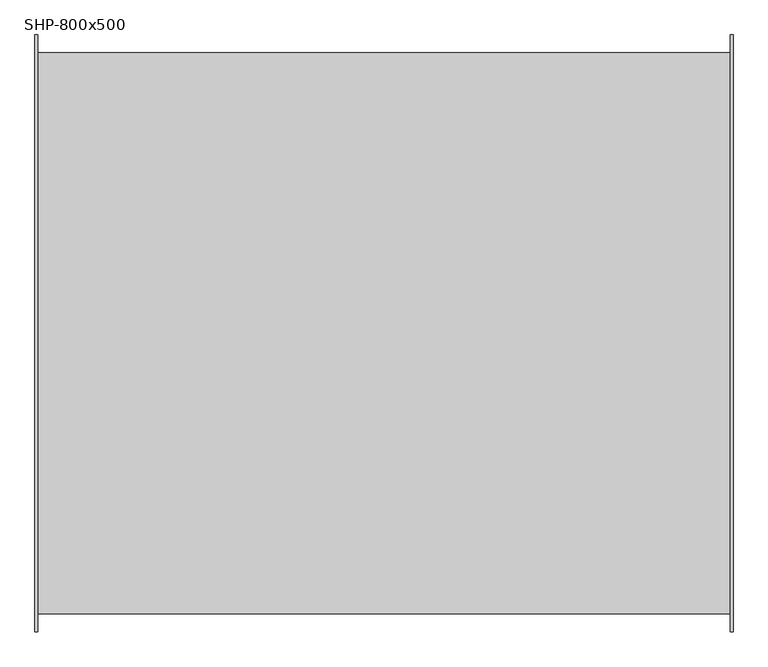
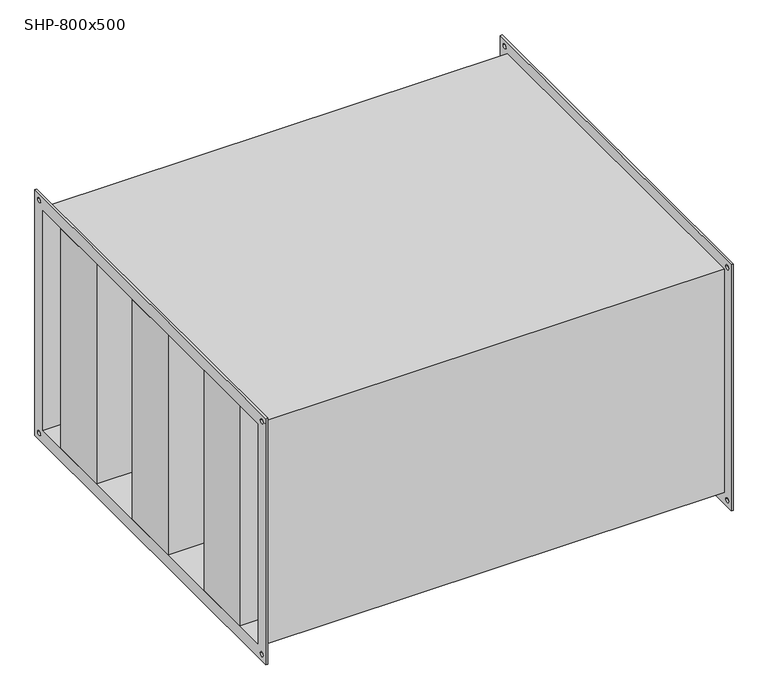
"""IFC4 building model written with IfcOpenShell, lengths in millimetres: damper geometry, СВ_Шумоглушитель_КанальныйПрямоугольный_200-1000_SHP : SHP-800x500."""

from ifc_helpers import new_model, si_unit, frame, origin, place, context, project, spatial, polyline, circle_curve, outline, extrude, source, transform, mapped, element, save
from ifc_brep_helpers import plane_surface, revolved_surface, advanced_brep


def shp_800x500_06faf96d(model_context):
    return source(origin(), model_context, "Body", "SolidModel", [
        extrude(outline(polyline([(502.5, 333.3333333), (502.5, 200.0), (-502.5, 200.0), (-502.5, 333.3333333), (502.5, 333.3333333)])), frame((0.0, 0.0, -250.0), z_axis=(0.0, 0.0, 1.0), x_axis=(1.0, 0.0, 0.0)), (0.0, 0.0, 1.0), 500.0),
        extrude(outline(polyline([(502.5, 66.6666667), (502.5, -66.6666667), (-502.5, -66.6666667), (-502.5, 66.6666667), (502.5, 66.6666667)])), frame((0.0, 0.0, -250.0), z_axis=(0.0, 0.0, 1.0), x_axis=(1.0, 0.0, 0.0)), (0.0, 0.0, 1.0), 500.0),
        extrude(outline(polyline([(502.5, -200.0), (502.5, -333.3333333), (-502.5, -333.3333333), (-502.5, -200.0), (502.5, -200.0)])), frame((0.0, 0.0, -250.0), z_axis=(0.0, 0.0, 1.0), x_axis=(1.0, 0.0, 0.0)), (0.0, 0.0, 1.0), 500.0),
        advanced_brep(
        [(498.5, -404.0, 254.0), (-498.5, -404.0, 254.0), (-498.5, -404.0, -254.0), (498.5, -404.0, -254.0), (-498.5, 404.0, -254.0), (498.5, 404.0, -254.0), (-498.5, 404.0, 254.0), (498.5, 404.0, 254.0), (-502.5, -430.0, 280.0), (-502.5, 430.0, 280.0), (-502.5, 430.0, -280.0), (-502.5, -430.0, -280.0), (-502.5, -400.0, 250.0), (-502.5, -400.0, -250.0), (-502.5, 400.0, -250.0), (-502.5, 400.0, 250.0), (-502.5, 410.0, 265.0), (-502.5, 420.0, 265.0), (-502.5, -420.0, 265.0), (-502.5, -410.0, 265.0), (-502.5, -420.0, -265.0), (-502.5, -410.0, -265.0), (-502.5, 410.0, -265.0), (-502.5, 420.0, -265.0), (-498.5, -430.0, 280.0), (-498.5, -430.0, -280.0), (-498.5, 430.0, -280.0), (-498.5, 430.0, 280.0), (-498.5, 420.0, 265.0), (-498.5, 410.0, 265.0), (-498.5, -410.0, 265.0), (-498.5, -420.0, 265.0), (-498.5, -410.0, -265.0), (-498.5, -420.0, -265.0), (-498.5, 420.0, -265.0), (-498.5, 410.0, -265.0), (498.5, 430.0, 280.0), (498.5, 430.0, -280.0), (498.5, -430.0, -280.0), (498.5, -430.0, 280.0), (498.5, 410.0, 265.0), (498.5, 420.0, 265.0), (498.5, -420.0, 265.0), (498.5, -410.0, 265.0), (498.5, -420.0, -265.0), (498.5, -410.0, -265.0), (498.5, 410.0, -265.0), (498.5, 420.0, -265.0), (502.5, 430.0, 280.0), (502.5, -430.0, 280.0), (502.5, -430.0, -280.0), (502.5, 430.0, -280.0), (502.5, 400.0, 250.0), (502.5, 400.0, -250.0), (502.5, -400.0, -250.0), (502.5, -400.0, 250.0), (502.5, 420.0, 265.0), (502.5, 410.0, 265.0), (502.5, -410.0, 265.0), (502.5, -420.0, 265.0), (502.5, -410.0, -265.0), (502.5, -420.0, -265.0), (502.5, 420.0, -265.0), (502.5, 410.0, -265.0)],
        [
            (0, 1),
            (1, 2),
            (2, 3),
            (3, 0),
            (2, 4),
            (4, 5),
            (5, 3),
            (4, 6),
            (6, 7),
            (7, 5),
            (0, 7),
            (6, 1),
            (8, 9),
            (9, 10),
            (10, 11),
            (11, 8),
            (12, 13),
            (13, 14),
            (14, 15),
            (15, 12),
            (16, 17, circle_curve(frame((-502.5, 415.0, 265.0), z_axis=(1.0, 0.0, 0.0), x_axis=(0.0, 1.0, 0.0)), 5.0)),
            (17, 16, circle_curve(frame((-502.5, 415.0, 265.0), z_axis=(1.0, 0.0, 0.0), x_axis=(0.0, 1.0, 0.0)), 5.0)),
            (18, 19, circle_curve(frame((-502.5, -415.0, 265.0), z_axis=(1.0, 0.0, 0.0), x_axis=(0.0, 1.0, 0.0)), 5.0)),
            (19, 18, circle_curve(frame((-502.5, -415.0, 265.0), z_axis=(1.0, 0.0, 0.0), x_axis=(0.0, 1.0, 0.0)), 5.0)),
            (20, 21, circle_curve(frame((-502.5, -415.0, -265.0), z_axis=(1.0, 0.0, 0.0), x_axis=(0.0, 1.0, 0.0)), 5.0)),
            (21, 20, circle_curve(frame((-502.5, -415.0, -265.0), z_axis=(1.0, 0.0, 0.0), x_axis=(0.0, 1.0, 0.0)), 5.0)),
            (22, 23, circle_curve(frame((-502.5, 415.0, -265.0), z_axis=(1.0, 0.0, 0.0), x_axis=(0.0, 1.0, 0.0)), 5.0)),
            (23, 22, circle_curve(frame((-502.5, 415.0, -265.0), z_axis=(1.0, 0.0, 0.0), x_axis=(0.0, 1.0, 0.0)), 5.0)),
            (24, 25),
            (25, 26),
            (26, 27),
            (27, 24),
            (28, 29, circle_curve(frame((-498.5, 415.0, 265.0), z_axis=(-1.0, 0.0, 0.0), x_axis=(0.0, 1.0, 0.0)), 5.0)),
            (29, 28, circle_curve(frame((-498.5, 415.0, 265.0), z_axis=(-1.0, 0.0, 0.0), x_axis=(0.0, 1.0, 0.0)), 5.0)),
            (30, 31, circle_curve(frame((-498.5, -415.0, 265.0), z_axis=(-1.0, 0.0, 0.0), x_axis=(0.0, 1.0, 0.0)), 5.0)),
            (31, 30, circle_curve(frame((-498.5, -415.0, 265.0), z_axis=(-1.0, 0.0, 0.0), x_axis=(0.0, 1.0, 0.0)), 5.0)),
            (32, 33, circle_curve(frame((-498.5, -415.0, -265.0), z_axis=(-1.0, 0.0, 0.0), x_axis=(0.0, 1.0, 0.0)), 5.0)),
            (33, 32, circle_curve(frame((-498.5, -415.0, -265.0), z_axis=(-1.0, 0.0, 0.0), x_axis=(0.0, 1.0, 0.0)), 5.0)),
            (34, 35, circle_curve(frame((-498.5, 415.0, -265.0), z_axis=(-1.0, 0.0, 0.0), x_axis=(0.0, 1.0, 0.0)), 5.0)),
            (35, 34, circle_curve(frame((-498.5, 415.0, -265.0), z_axis=(-1.0, 0.0, 0.0), x_axis=(0.0, 1.0, 0.0)), 5.0)),
            (11, 25),
            (24, 8),
            (10, 26),
            (9, 27),
            (36, 37),
            (37, 38),
            (38, 39),
            (39, 36),
            (40, 41, circle_curve(frame((498.5, 415.0, 265.0), z_axis=(1.0, 0.0, 0.0), x_axis=(0.0, 1.0, 0.0)), 5.0)),
            (41, 40, circle_curve(frame((498.5, 415.0, 265.0), z_axis=(1.0, 0.0, 0.0), x_axis=(0.0, 1.0, 0.0)), 5.0)),
            (42, 43, circle_curve(frame((498.5, -415.0, 265.0), z_axis=(1.0, 0.0, 0.0), x_axis=(0.0, 1.0, 0.0)), 5.0)),
            (43, 42, circle_curve(frame((498.5, -415.0, 265.0), z_axis=(1.0, 0.0, 0.0), x_axis=(0.0, 1.0, 0.0)), 5.0)),
            (44, 45, circle_curve(frame((498.5, -415.0, -265.0), z_axis=(1.0, 0.0, 0.0), x_axis=(0.0, 1.0, 0.0)), 5.0)),
            (45, 44, circle_curve(frame((498.5, -415.0, -265.0), z_axis=(1.0, 0.0, 0.0), x_axis=(0.0, 1.0, 0.0)), 5.0)),
            (46, 47, circle_curve(frame((498.5, 415.0, -265.0), z_axis=(1.0, 0.0, 0.0), x_axis=(0.0, 1.0, 0.0)), 5.0)),
            (47, 46, circle_curve(frame((498.5, 415.0, -265.0), z_axis=(1.0, 0.0, 0.0), x_axis=(0.0, 1.0, 0.0)), 5.0)),
            (48, 49),
            (49, 50),
            (50, 51),
            (51, 48),
            (52, 53),
            (53, 54),
            (54, 55),
            (55, 52),
            (56, 57, circle_curve(frame((502.5, 415.0, 265.0), z_axis=(-1.0, 0.0, 0.0), x_axis=(0.0, 1.0, 0.0)), 5.0)),
            (57, 56, circle_curve(frame((502.5, 415.0, 265.0), z_axis=(-1.0, 0.0, 0.0), x_axis=(0.0, 1.0, 0.0)), 5.0)),
            (58, 59, circle_curve(frame((502.5, -415.0, 265.0), z_axis=(-1.0, 0.0, 0.0), x_axis=(0.0, 1.0, 0.0)), 5.0)),
            (59, 58, circle_curve(frame((502.5, -415.0, 265.0), z_axis=(-1.0, 0.0, 0.0), x_axis=(0.0, 1.0, 0.0)), 5.0)),
            (60, 61, circle_curve(frame((502.5, -415.0, -265.0), z_axis=(-1.0, 0.0, 0.0), x_axis=(0.0, 1.0, 0.0)), 5.0)),
            (61, 60, circle_curve(frame((502.5, -415.0, -265.0), z_axis=(-1.0, 0.0, 0.0), x_axis=(0.0, 1.0, 0.0)), 5.0)),
            (62, 63, circle_curve(frame((502.5, 415.0, -265.0), z_axis=(-1.0, 0.0, 0.0), x_axis=(0.0, 1.0, 0.0)), 5.0)),
            (63, 62, circle_curve(frame((502.5, 415.0, -265.0), z_axis=(-1.0, 0.0, 0.0), x_axis=(0.0, 1.0, 0.0)), 5.0)),
            (39, 49),
            (48, 36),
            (38, 50),
            (37, 51),
            (15, 52),
            (55, 12),
            (14, 53),
            (13, 54),
            (16, 29),
            (28, 17),
            (40, 57),
            (56, 41),
            (18, 31),
            (30, 19),
            (42, 59),
            (58, 43),
            (20, 33),
            (32, 21),
            (44, 61),
            (60, 45),
            (22, 35),
            (34, 23),
            (46, 63),
            (62, 47),
        ],
        [
            plane_surface(frame((498.5, -404.0, 254.0), z_axis=(0.0, -1.0, 0.0), x_axis=(-1.0, 0.0, 0.0))),
            plane_surface(frame((498.5, -404.0, -254.0), z_axis=(0.0, 0.0, -1.0), x_axis=(-1.0, 0.0, 0.0))),
            plane_surface(frame((498.5, 404.0, -254.0), z_axis=(0.0, 1.0, 0.0), x_axis=(-1.0, 0.0, 0.0))),
            plane_surface(frame((498.5, 404.0, 254.0), z_axis=(0.0, 0.0, 1.0), x_axis=(-1.0, 0.0, 0.0))),
            plane_surface(frame((-502.5, -430.0, 280.0), z_axis=(-1.0, 0.0, 0.0), x_axis=(0.0, 0.0, 1.0))),
            plane_surface(frame((-498.5, -430.0, 280.0), z_axis=(1.0, 0.0, 0.0), x_axis=(0.0, 0.0, -1.0))),
            plane_surface(frame((-498.5, -430.0, 280.0), z_axis=(0.0, -1.0, 0.0), x_axis=(-1.0, 0.0, 0.0))),
            plane_surface(frame((-498.5, -430.0, -280.0), z_axis=(0.0, 0.0, -1.0), x_axis=(-1.0, 0.0, 0.0))),
            plane_surface(frame((-498.5, 430.0, -280.0), z_axis=(0.0, 1.0, 0.0), x_axis=(-1.0, 0.0, 0.0))),
            plane_surface(frame((-498.5, 430.0, 280.0), z_axis=(0.0, 0.0, 1.0), x_axis=(-1.0, 0.0, 0.0))),
            plane_surface(frame((498.5, 400.0, -250.0), z_axis=(-1.0, 0.0, 0.0), x_axis=(0.0, 0.0, 1.0))),
            plane_surface(frame((502.5, 400.0, -250.0), z_axis=(1.0, 0.0, 0.0), x_axis=(0.0, 0.0, -1.0))),
            plane_surface(frame((502.5, 430.0, 280.0), z_axis=(0.0, 0.0, 1.0), x_axis=(-1.0, 0.0, 0.0))),
            plane_surface(frame((502.5, -430.0, 280.0), z_axis=(0.0, -1.0, 0.0), x_axis=(-1.0, 0.0, 0.0))),
            plane_surface(frame((502.5, -430.0, -280.0), z_axis=(0.0, 0.0, -1.0), x_axis=(-1.0, 0.0, 0.0))),
            plane_surface(frame((502.5, 430.0, -280.0), z_axis=(0.0, 1.0, 0.0), x_axis=(-1.0, 0.0, 0.0))),
            plane_surface(frame((-498.5, -400.0, 250.0), z_axis=(0.0, 0.0, -1.0), x_axis=(-1.0, 0.0, 0.0))),
            plane_surface(frame((-498.5, 400.0, 250.0), z_axis=(0.0, -1.0, 0.0), x_axis=(-1.0, 0.0, 0.0))),
            plane_surface(frame((-498.5, 400.0, -250.0), z_axis=(0.0, 0.0, 1.0), x_axis=(-1.0, 0.0, 0.0))),
            plane_surface(frame((-498.5, -400.0, -250.0), z_axis=(0.0, 1.0, 0.0), x_axis=(-1.0, 0.0, 0.0))),
            revolved_surface(polyline([(-498.5, 420.0, 265.0), (-502.5, 420.0, 265.0)]), (-502.5, 415.0, 265.0), (1.0, 0.0, 0.0)),
            revolved_surface(polyline([(502.5, 420.0, 265.0), (498.5, 420.0, 265.0)]), (-502.5, 415.0, 265.0), (1.0, 0.0, 0.0)),
            revolved_surface(polyline([(-498.5, -410.0, 265.0), (-502.5, -410.0, 265.0)]), (0.0, -415.0, 265.0), (1.0, 0.0, 0.0)),
            revolved_surface(polyline([(502.5, -410.0, 265.0), (498.5, -410.0, 265.0)]), (0.0, -415.0, 265.0), (1.0, 0.0, 0.0)),
            revolved_surface(polyline([(-498.5, -410.0, -265.0), (-502.5, -410.0, -265.0)]), (0.0, -415.0, -265.0), (1.0, 0.0, 0.0)),
            revolved_surface(polyline([(502.5, -410.0, -265.0), (498.5, -410.0, -265.0)]), (0.0, -415.0, -265.0), (1.0, 0.0, 0.0)),
            revolved_surface(polyline([(-498.5, 420.0, -265.0), (-502.5, 420.0, -265.0)]), (0.0, 415.0, -265.0), (1.0, 0.0, 0.0)),
            revolved_surface(polyline([(502.5, 420.0, -265.0), (498.5, 420.0, -265.0)]), (0.0, 415.0, -265.0), (1.0, 0.0, 0.0)),
        ],
        [
            (0, [[1, 2, 3, 4]]),
            (1, [[-3, 5, 6, 7]]),
            (2, [[-6, 8, 9, 10]]),
            (3, [[-1, 11, -9, 12]]),
            (4, [[13, 14, 15, 16], [17, 18, 19, 20], [21, 22], [23, 24], [25, 26], [27, 28]]),
            (5, [[29, 30, 31, 32], [-2, -12, -8, -5], [33, 34], [35, 36], [37, 38], [39, 40]]),
            (6, [[-16, 41, -29, 42]]),
            (7, [[-15, 43, -30, -41]]),
            (8, [[-14, 44, -31, -43]]),
            (9, [[-13, -42, -32, -44]]),
            (10, [[45, 46, 47, 48], [-4, -7, -10, -11], [49, 50], [51, 52], [53, 54], [55, 56]]),
            (11, [[57, 58, 59, 60], [61, 62, 63, 64], [65, 66], [67, 68], [69, 70], [71, 72]]),
            (12, [[-48, 73, -57, 74]]),
            (13, [[-47, 75, -58, -73]]),
            (14, [[-46, 76, -59, -75]]),
            (15, [[-45, -74, -60, -76]]),
            (16, [[-20, 77, -64, 78]]),
            (17, [[-77, -19, 79, -61]]),
            (18, [[-79, -18, 80, -62]]),
            (19, [[-80, -17, -78, -63]]),
            (20, [[81, -33, 82, -21]]),
            (21, [[83, -65, 84, -49]]),
            (20, [[-81, -22, -82, -34]]),
            (21, [[-83, -50, -84, -66]]),
            (22, [[85, -35, 86, -23]]),
            (23, [[87, -67, 88, -51]]),
            (22, [[-85, -24, -86, -36]]),
            (23, [[-87, -52, -88, -68]]),
            (24, [[89, -37, 90, -25]]),
            (25, [[91, -69, 92, -53]]),
            (24, [[-89, -26, -90, -38]]),
            (25, [[-91, -54, -92, -70]]),
            (26, [[93, -39, 94, -27]]),
            (27, [[95, -71, 96, -55]]),
            (26, [[-93, -28, -94, -40]]),
            (27, [[-95, -56, -96, -72]]),
        ],
    ),
    ])


if __name__ == "__main__":
    model = new_model("IFC4")
    model_context = context("Model", 3, world=origin())
    ifc_project = project(units=[si_unit("LENGTHUNIT", "METRE", prefix="MILLI")], contexts=[model_context])
    site = spatial("IfcSite", under=ifc_project)
    building = spatial("IfcBuilding", under=site)
    placement = place(None, origin())
    shp_800x500_shape = shp_800x500_06faf96d(model_context)
    element("IfcDamper", 1, ObjectType="СВ_Шумоглушитель_КанальныйПрямоугольный_200-1000_SHP : SHP-800x500", at=placement, inside=building, context=model_context, shape_type="MappedRepresentation", body=[
        mapped(shp_800x500_shape, transform((0.0, 0.0, 0.0), x_axis=(1.0, 0.0, 0.0), y_axis=(0.0, 1.0, 0.0), z_axis=(0.0, 0.0, 1.0))),
    ])
    save(model, "model.ifc")
